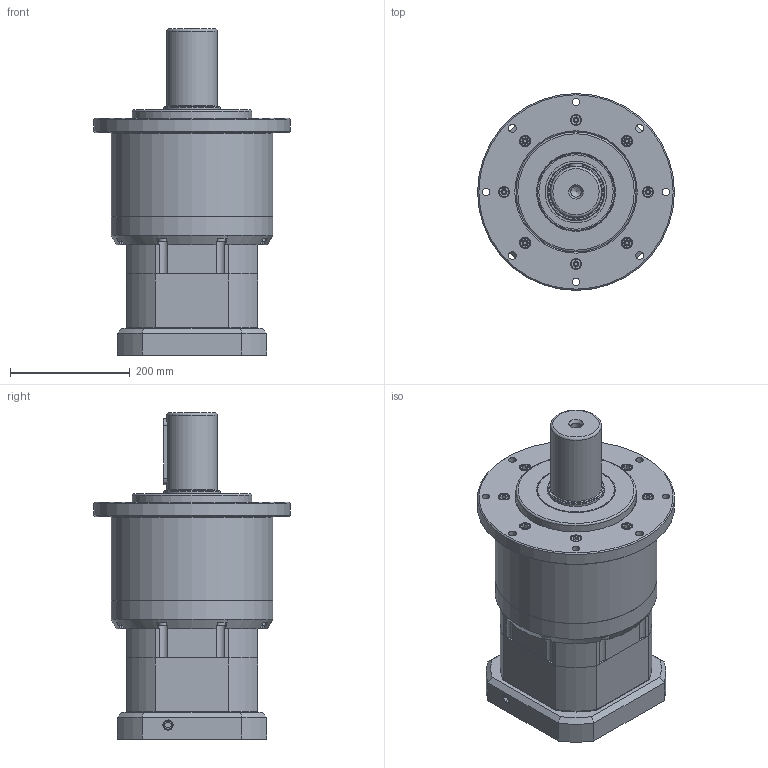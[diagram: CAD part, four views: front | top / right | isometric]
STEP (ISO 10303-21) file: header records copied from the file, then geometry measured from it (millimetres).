
FILE_DESCRIPTION((''),'2;1');
FILE_NAME('D:\WORK\감속기 카다로그 도면\ATG Reducer(홈페이지)\KSB\KSB-270-2.stp','2015-03-23T15:59:33',('young'),(''),'Autodesk Inventor 2012','Autodesk Inventor 2012','');
FILE_SCHEMA(('AUTOMOTIVE_DESIGN { 1 0 10303 214 1 1 1 1 }'));
Length unit declared in the file: millimetre
Products named in the file (1): KSB-270-2
Bounding box: 328 x 328 x 544 mm (x, y, z)
Volume: 8986013.5 mm3; surface area: 1388739.8 mm2
Topology: 34 solids, 34 shells, 1094 faces, 2542 edges, 1594 vertices
Faces by surface type: plane 534, cylinder 336, cone 168, torus 32, bspline 24
Full cylindrical faces by diameter (mm): 6.5 x4, 8.5 x9, 10 x9, 10.2 x20, 10.3 x8, 11 x1, 12 x12, 13 x24, 14.275 x2, 14.5 x2, 16 x9, 17.5 x1, 18 x12, 19 x12, 58 x1, 65.2 x1, 67.8 x1, 68 x1, 76 x1, 85 x1, 86 x1, 90 x3, 94.8 x1, 95 x1, 103 x1, 126 x1, 130 x2, 155 x1, 178.318 x1, 200 x4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
Entity records: 30727 total; most frequent: CARTESIAN_POINT 6768, DIRECTION 5200, ORIENTED_EDGE 4268, EDGE_CURVE 2134, AXIS2_PLACEMENT_3D 2106, EDGE_LOOP 1594, VERTEX_POINT 1514, FACE_OUTER_BOUND 1094
